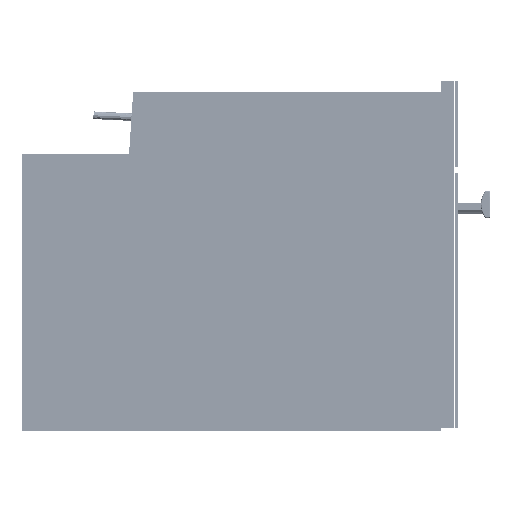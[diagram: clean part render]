
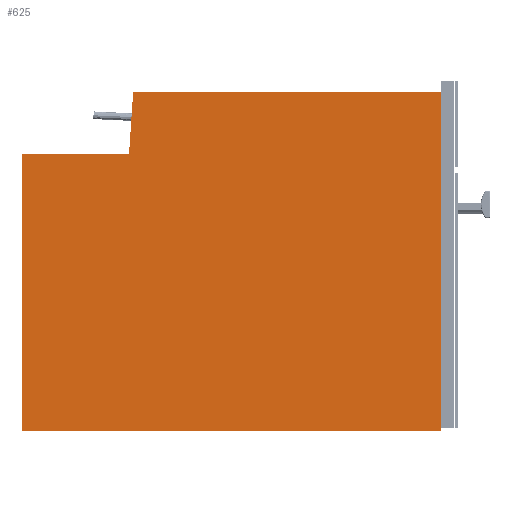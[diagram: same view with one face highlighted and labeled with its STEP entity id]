
A CAD part, front view. The second image highlights one B-rep face of the part: STEP entity #625.
In plain terms, the highlighted free-form (B-spline) face has degree [1, 1] with [2, 2] control points.
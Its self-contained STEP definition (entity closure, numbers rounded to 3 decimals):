
#625=ADVANCED_FACE('',(#805),#2259,.T.);
#805=FACE_OUTER_BOUND('',#987,.T.);
#987=EDGE_LOOP('',(#1338,#1339,#1340,#1341,#1342,#1343));
#1338=ORIENTED_EDGE('',*,*,#1805,.T.);
#1339=ORIENTED_EDGE('',*,*,#1808,.T.);
#1340=ORIENTED_EDGE('',*,*,#1819,.T.);
#1341=ORIENTED_EDGE('',*,*,#1822,.T.);
#1342=ORIENTED_EDGE('',*,*,#1824,.T.);
#1343=ORIENTED_EDGE('',*,*,#1801,.T.);
#1801=EDGE_CURVE('',#2068,#2067,#2375,.T.);
#1805=EDGE_CURVE('',#2067,#2070,#2379,.T.);
#1808=EDGE_CURVE('',#2070,#2072,#2382,.T.);
#1819=EDGE_CURVE('',#2072,#2082,#2393,.T.);
#1822=EDGE_CURVE('',#2082,#2084,#2396,.T.);
#1824=EDGE_CURVE('',#2084,#2068,#2398,.T.);
#2067=VERTEX_POINT('',#53452);
#2068=VERTEX_POINT('',#53453);
#2070=VERTEX_POINT('',#53455);
#2072=VERTEX_POINT('',#53457);
#2082=VERTEX_POINT('',#53467);
#2084=VERTEX_POINT('',#53469);
#2259=B_SPLINE_SURFACE_WITH_KNOTS('',1,1,((#53406,#53407),(#53408,#53409)),
.UNSPECIFIED.,.F.,.F.,.F.,(2,2),(2,2),(0.319,0.618),
(0.285,0.656),.UNSPECIFIED.);
#2375=B_SPLINE_CURVE_WITH_KNOTS('',1,(#53286,#53287),.UNSPECIFIED.,.F.,.F.,
(2,2),(0.,1.),.UNSPECIFIED.);
#2379=B_SPLINE_CURVE_WITH_KNOTS('',1,(#53294,#53295),.UNSPECIFIED.,.F.,.F.,
(2,2),(0.,1.),.UNSPECIFIED.);
#2382=B_SPLINE_CURVE_WITH_KNOTS('',1,(#53300,#53301),.UNSPECIFIED.,.F.,.F.,
(2,2),(0.,1.),.UNSPECIFIED.);
#2393=B_SPLINE_CURVE_WITH_KNOTS('',1,(#53330,#53331),.UNSPECIFIED.,.F.,.F.,
(2,2),(0.,1.),.UNSPECIFIED.);
#2396=B_SPLINE_CURVE_WITH_KNOTS('',1,(#53336,#53337),.UNSPECIFIED.,.F.,.F.,
(2,2),(0.,1.),.UNSPECIFIED.);
#2398=B_SPLINE_CURVE_WITH_KNOTS('',1,(#53340,#53341),.UNSPECIFIED.,.F.,.F.,
(2,2),(0.,1.),.UNSPECIFIED.);
#53286=CARTESIAN_POINT('',(-545.388,-276.5,360.503));
#53287=CARTESIAN_POINT('',(-545.388,-276.5,-0.013));
#53294=CARTESIAN_POINT('',(-545.388,-276.5,-0.013));
#53295=CARTESIAN_POINT('',(0.012,-276.5,-0.013));
#53300=CARTESIAN_POINT('',(0.012,-276.5,-0.013));
#53301=CARTESIAN_POINT('',(0.012,-276.5,440.94));
#53330=CARTESIAN_POINT('',(0.012,-276.5,440.94));
#53331=CARTESIAN_POINT('',(-400.713,-276.5,440.94));
#53336=CARTESIAN_POINT('',(-400.713,-276.5,440.94));
#53337=CARTESIAN_POINT('',(-406.125,-276.5,360.507));
#53340=CARTESIAN_POINT('',(-406.125,-276.5,360.507));
#53341=CARTESIAN_POINT('',(-545.388,-276.5,360.503));
#53406=CARTESIAN_POINT('',(0.012,-276.5,-0.013));
#53407=CARTESIAN_POINT('',(-545.388,-276.5,-0.013));
#53408=CARTESIAN_POINT('',(0.012,-276.5,440.94));
#53409=CARTESIAN_POINT('',(-545.388,-276.5,440.94));
#53452=CARTESIAN_POINT('',(-545.388,-276.5,-0.013));
#53453=CARTESIAN_POINT('',(-545.388,-276.5,360.503));
#53455=CARTESIAN_POINT('',(0.012,-276.5,-0.013));
#53457=CARTESIAN_POINT('',(0.012,-276.5,440.94));
#53467=CARTESIAN_POINT('',(-400.713,-276.5,440.94));
#53469=CARTESIAN_POINT('',(-406.125,-276.5,360.507));
